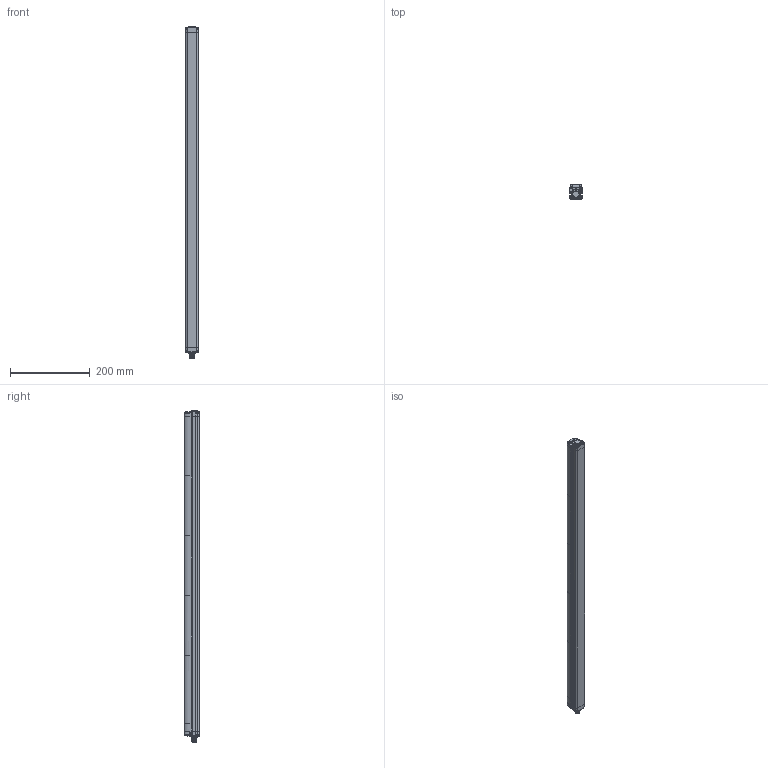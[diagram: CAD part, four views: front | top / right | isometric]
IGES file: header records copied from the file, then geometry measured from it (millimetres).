
Global section: file name: D:\Studi\DSD-0161.igs; preprocessor: I-DEAS 3D IGES Translator 11; date: 20080609.150838; units: millimetre
Bounding box: 32.3 x 36.9 x 833.34 mm (x, y, z)
Volume: 817441.6 mm3; surface area: 196345 mm2
Topology: 12 solids, 12 shells, 1628 faces, 6343 edges, 5186 vertices
Faces by surface type: bspline 1628
